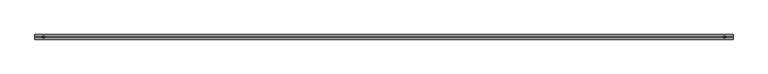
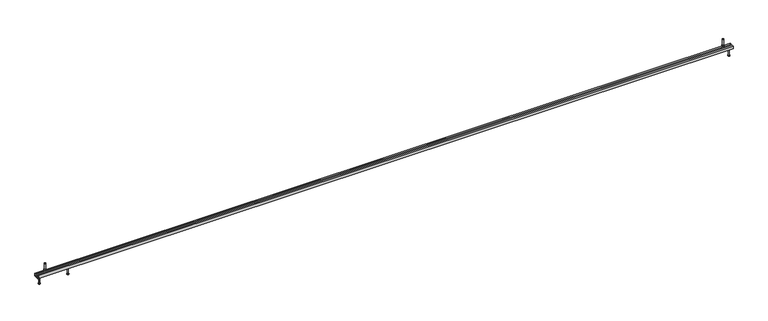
"""IFC4 building model written with IfcOpenShell, lengths in millimetres: fastener geometry, JTA-K JORDAHL® AnchorChannels : JTA-K L=6000 mm."""

from ifc_helpers import new_model, si_unit, point, frame, frame_2d, origin, place, context, project, spatial, polyline, circle_curve, trimmed, segment, composite_curve, outline, extrude, source, transform, mapped, element, save
from ifc_brep_helpers import plane_surface, cylinder_surface, revolved_surface, advanced_brep


def fastener_2074a9e6(model_context):
    return source(origin(), model_context, "Body", "SolidModel", [
        advanced_brep(
        [(272.9166667, 0.0, -25.0), (259.4166667, 0.0, -25.0), (286.4166667, 0.0, -25.0), (264.4166667, 0.0, -90.0), (272.9166667, 0.0, -90.0), (281.4166667, 0.0, -90.0), (264.4166667, 0.0, -88.0), (281.4166667, 0.0, -88.0), (268.4166667, 0.0, -85.6905989), (277.4166667, 0.0, -85.6905989), (268.4166667, 0.0, -27.5), (277.4166667, 0.0, -27.5)],
        [
            (0, 1),
            (1, 2, circle_curve(frame((272.9166667, 0.0, -25.0), z_axis=(0.0, 0.0, 1.0), x_axis=(1.0, 0.0, 0.0)), 13.5)),
            (2, 0),
            (2, 1, circle_curve(frame((272.9166667, 0.0, -25.0), z_axis=(0.0, 0.0, 1.0), x_axis=(1.0, 0.0, 0.0)), 13.5)),
            (3, 4),
            (4, 5),
            (5, 3, circle_curve(frame((272.9166667, 0.0, -90.0), z_axis=(0.0, 0.0, -1.0), x_axis=(1.0, 0.0, 0.0)), 8.5)),
            (3, 5, circle_curve(frame((272.9166667, 0.0, -90.0), z_axis=(0.0, 0.0, -1.0), x_axis=(1.0, 0.0, 0.0)), 8.5)),
            (6, 3),
            (5, 7),
            (7, 6, circle_curve(frame((272.9166667, 0.0, -88.0), z_axis=(0.0, 0.0, -1.0), x_axis=(1.0, 0.0, 0.0)), 8.5)),
            (6, 7, circle_curve(frame((272.9166667, 0.0, -88.0), z_axis=(0.0, 0.0, -1.0), x_axis=(1.0, 0.0, 0.0)), 8.5)),
            (8, 6),
            (7, 9),
            (9, 8, circle_curve(frame((272.9166667, 0.0, -85.6905989), z_axis=(0.0, 0.0, -1.0), x_axis=(1.0, 0.0, 0.0)), 4.5)),
            (8, 9, circle_curve(frame((272.9166667, 0.0, -85.6905989), z_axis=(0.0, 0.0, -1.0), x_axis=(1.0, 0.0, 0.0)), 4.5)),
            (10, 8),
            (9, 11),
            (11, 10, circle_curve(frame((272.9166667, 0.0, -27.5), z_axis=(0.0, 0.0, -1.0), x_axis=(1.0, 0.0, 0.0)), 4.5)),
            (10, 11, circle_curve(frame((272.9166667, 0.0, -27.5), z_axis=(0.0, 0.0, -1.0), x_axis=(1.0, 0.0, 0.0)), 4.5)),
            (1, 10),
            (11, 2),
        ],
        [
            plane_surface(frame((272.9166667, 0.0, -25.0), z_axis=(0.0, 0.0, 1.0), x_axis=(1.0, 0.0, 0.0))),
            plane_surface(frame((272.9166667, 0.0, -90.0), z_axis=(0.0, 0.0, -1.0), x_axis=(1.0, 0.0, 0.0))),
            cylinder_surface(frame((272.9166667, 0.0, 2279.3150031), z_axis=(0.0, 0.0, 1.0), x_axis=(1.0, 0.0, 0.0)), 8.5),
            revolved_surface(polyline([(281.4166667, 0.0, -88.0), (277.4166667, 0.0, -85.6905989)]), (272.9166667, 0.0, 2279.3150031), (0.0, 0.0, 1.0)),
            cylinder_surface(frame((272.9166667, 0.0, 2279.3150031), z_axis=(0.0, 0.0, 1.0), x_axis=(1.0, 0.0, 0.0)), 4.5),
            revolved_surface(polyline([(277.4166667, 0.0, -27.5), (286.4166667, 0.0, -25.0)]), (272.9166667, 0.0, 2279.3150031), (0.0, 0.0, 1.0)),
        ],
        [
            (0, [[1, 2, 3]]),
            (0, [[-3, 4, -1]]),
            (1, [[5, 6, 7]]),
            (1, [[-6, -5, 8]]),
            (2, [[9, -7, 10, 11]]),
            (2, [[-10, -8, -9, 12]]),
            (3, [[13, -11, 14, 15]]),
            (3, [[-14, -12, -13, 16]]),
            (4, [[17, -15, 18, 19]]),
            (4, [[-18, -16, -17, 20]]),
            (5, [[21, -19, 22, -2]]),
            (5, [[-22, -20, -21, -4]]),
        ],
    ),
        extrude(outline(polyline([(5925.0, -9.2376043), (5917.0, -4.6188022), (5917.0, 4.6188022), (5925.0, 9.2376043), (5933.0, 4.6188022), (5933.0, -4.6188022), (5925.0, -9.2376043)]), holes=[composite_curve([segment(trimmed(circle_curve(frame_2d((5925.0, 0.0)), 5.0), [point((5920.0, 0.0))], [point((5930.0, 0.0))], True, "CARTESIAN"), True, "CONTINUOUS"), segment(trimmed(circle_curve(frame_2d((5925.0, 0.0)), 5.0), [point((5930.0, 0.0))], [point((5920.0, 0.0))], True, "CARTESIAN"), True, "CONTINUOUS")], self_intersect=False)]), frame((0.0, 0.0, 17.0), z_axis=(0.0, 0.0, 1.0), x_axis=(1.0, 0.0, 0.0)), (0.0, 0.0, 1.0), 8.4),
        extrude(outline(composite_curve([segment(trimmed(circle_curve(frame_2d((5925.0, 0.0)), 10.0), [point((5915.0, 0.0))], [point((5935.0, 0.0))], False, "CARTESIAN"), True, "CONTINUOUS"), segment(trimmed(circle_curve(frame_2d((5925.0, 0.0)), 10.0), [point((5935.0, 0.0))], [point((5915.0, 0.0))], False, "CARTESIAN"), True, "CONTINUOUS")], self_intersect=False), holes=[composite_curve([segment(trimmed(circle_curve(frame_2d((5925.0, 0.0)), 5.25), [point((5919.75, 0.0))], [point((5930.25, 0.0))], True, "CARTESIAN"), True, "CONTINUOUS"), segment(trimmed(circle_curve(frame_2d((5925.0, 0.0)), 5.25), [point((5930.25, 0.0))], [point((5919.75, 0.0))], True, "CARTESIAN"), True, "CONTINUOUS")], self_intersect=False)]), frame((0.0, 0.0, 15.0), z_axis=(0.0, 0.0, 1.0), x_axis=(1.0, 0.0, 0.0)), (0.0, 0.0, 1.0), 2.0),
        extrude(outline(polyline([(75.0, -9.2376043), (67.0, -4.6188022), (67.0, 4.6188022), (75.0, 9.2376043), (83.0, 4.6188022), (83.0, -4.6188022), (75.0, -9.2376043)]), holes=[composite_curve([segment(trimmed(circle_curve(frame_2d((75.0, 0.0)), 5.0), [point((70.0, 0.0))], [point((80.0, 0.0))], True, "CARTESIAN"), True, "CONTINUOUS"), segment(trimmed(circle_curve(frame_2d((75.0, 0.0)), 5.0), [point((80.0, 0.0))], [point((70.0, 0.0))], True, "CARTESIAN"), True, "CONTINUOUS")], self_intersect=False)]), frame((0.0, 0.0, 17.0), z_axis=(0.0, 0.0, 1.0), x_axis=(1.0, 0.0, 0.0)), (0.0, 0.0, 1.0), 8.4),
        extrude(outline(composite_curve([segment(trimmed(circle_curve(frame_2d((75.0, 0.0)), 10.0), [point((65.0, 0.0))], [point((85.0, 0.0))], False, "CARTESIAN"), True, "CONTINUOUS"), segment(trimmed(circle_curve(frame_2d((75.0, 0.0)), 10.0), [point((85.0, 0.0))], [point((65.0, 0.0))], False, "CARTESIAN"), True, "CONTINUOUS")], self_intersect=False), holes=[composite_curve([segment(trimmed(circle_curve(frame_2d((75.0, 0.0)), 5.25), [point((69.75, 0.0))], [point((80.25, 0.0))], True, "CARTESIAN"), True, "CONTINUOUS"), segment(trimmed(circle_curve(frame_2d((75.0, 0.0)), 5.25), [point((80.25, 0.0))], [point((69.75, 0.0))], True, "CARTESIAN"), True, "CONTINUOUS")], self_intersect=False)]), frame((0.0, 0.0, 15.0), z_axis=(0.0, 0.0, 1.0), x_axis=(1.0, 0.0, 0.0)), (0.0, 0.0, 1.0), 2.0),
        advanced_brep(
        [(5932.0, -16.0, -3.0), (5932.0, -16.0, -11.0), (5932.0, 16.0, -11.0), (5932.0, 16.0, -3.0), (5918.0, -16.0, -3.0), (5918.0, 16.0, -3.0), (5918.0, 16.0, -11.0), (5918.0, -16.0, -11.0), (5930.0, 0.0, -3.0), (5920.0, 0.0, -3.0), (5920.0, 0.0, 77.0), (5930.0, 0.0, 77.0)],
        [
            (0, 1),
            (1, 2),
            (2, 3),
            (3, 0),
            (4, 5),
            (5, 6),
            (6, 7),
            (7, 4),
            (3, 5),
            (4, 0),
            (8, 9, circle_curve(frame((5925.0, 0.0, -3.0), z_axis=(0.0, 0.0, -1.0), x_axis=(1.0, 0.0, 0.0)), 5.0)),
            (9, 8, circle_curve(frame((5925.0, 0.0, -3.0), z_axis=(0.0, 0.0, -1.0), x_axis=(1.0, 0.0, 0.0)), 5.0)),
            (2, 6),
            (1, 7),
            (10, 11, circle_curve(frame((5925.0, 0.0, 77.0), z_axis=(0.0, 0.0, 1.0), x_axis=(1.0, 0.0, 0.0)), 5.0)),
            (11, 10, circle_curve(frame((5925.0, 0.0, 77.0), z_axis=(0.0, 0.0, 1.0), x_axis=(1.0, 0.0, 0.0)), 5.0)),
            (11, 8),
            (9, 10),
        ],
        [
            plane_surface(frame((5932.0, 16.0, -3.0), z_axis=(1.0, 0.0, 0.0), x_axis=(0.0, 1.0, 0.0))),
            plane_surface(frame((5918.0, 16.0, -3.0), z_axis=(-1.0, 0.0, 0.0), x_axis=(0.0, -1.0, 0.0))),
            plane_surface(frame((5932.0, -16.0, -3.0), z_axis=(0.0, 0.0, 1.0), x_axis=(-1.0, 0.0, 0.0))),
            plane_surface(frame((5932.0, 16.0, -3.0), z_axis=(0.0, 1.0, 0.0), x_axis=(-1.0, 0.0, 0.0))),
            plane_surface(frame((5932.0, 16.0, -11.0), z_axis=(0.0, 0.0, -1.0), x_axis=(-1.0, 0.0, 0.0))),
            plane_surface(frame((5932.0, -16.0, -11.0), z_axis=(0.0, -1.0, 0.0), x_axis=(-1.0, 0.0, 0.0))),
            plane_surface(frame((5930.0, 0.0, 77.0), z_axis=(0.0, 0.0, 1.0), x_axis=(0.0, -1.0, 0.0))),
            cylinder_surface(frame((5925.0, 0.0, -3.0), z_axis=(0.0, 0.0, 1.0), x_axis=(1.0, 0.0, 0.0)), 5.0),
        ],
        [
            (0, [[1, 2, 3, 4]]),
            (1, [[5, 6, 7, 8]]),
            (2, [[9, -5, 10, -4], [11, 12]]),
            (3, [[13, -6, -9, -3]]),
            (4, [[14, -7, -13, -2]]),
            (5, [[-10, -8, -14, -1]]),
            (6, [[15, 16]]),
            (7, [[17, -12, 18, -16]]),
            (7, [[-18, -11, -17, -15]]),
        ],
    ),
        advanced_brep(
        [(82.0, -16.0, -3.0), (82.0, -16.0, -11.0), (82.0, 16.0, -11.0), (82.0, 16.0, -3.0), (68.0, -16.0, -3.0), (68.0, 16.0, -3.0), (68.0, 16.0, -11.0), (68.0, -16.0, -11.0), (80.0, 0.0, -3.0), (70.0, 0.0, -3.0), (70.0, 0.0, 77.0), (80.0, 0.0, 77.0)],
        [
            (0, 1),
            (1, 2),
            (2, 3),
            (3, 0),
            (4, 5),
            (5, 6),
            (6, 7),
            (7, 4),
            (3, 5),
            (4, 0),
            (8, 9, circle_curve(frame((75.0, 0.0, -3.0), z_axis=(0.0, 0.0, -1.0), x_axis=(1.0, 0.0, 0.0)), 5.0)),
            (9, 8, circle_curve(frame((75.0, 0.0, -3.0), z_axis=(0.0, 0.0, -1.0), x_axis=(1.0, 0.0, 0.0)), 5.0)),
            (2, 6),
            (1, 7),
            (10, 11, circle_curve(frame((75.0, 0.0, 77.0), z_axis=(0.0, 0.0, 1.0), x_axis=(1.0, 0.0, 0.0)), 5.0)),
            (11, 10, circle_curve(frame((75.0, 0.0, 77.0), z_axis=(0.0, 0.0, 1.0), x_axis=(1.0, 0.0, 0.0)), 5.0)),
            (11, 8),
            (9, 10),
        ],
        [
            plane_surface(frame((82.0, 16.0, -3.0), z_axis=(1.0, 0.0, 0.0), x_axis=(0.0, 1.0, 0.0))),
            plane_surface(frame((68.0, 16.0, -3.0), z_axis=(-1.0, 0.0, 0.0), x_axis=(0.0, -1.0, 0.0))),
            plane_surface(frame((82.0, -16.0, -3.0), z_axis=(0.0, 0.0, 1.0), x_axis=(-1.0, 0.0, 0.0))),
            plane_surface(frame((82.0, 16.0, -3.0), z_axis=(0.0, 1.0, 0.0), x_axis=(-1.0, 0.0, 0.0))),
            plane_surface(frame((82.0, 16.0, -11.0), z_axis=(0.0, 0.0, -1.0), x_axis=(-1.0, 0.0, 0.0))),
            plane_surface(frame((82.0, -16.0, -11.0), z_axis=(0.0, -1.0, 0.0), x_axis=(-1.0, 0.0, 0.0))),
            plane_surface(frame((80.0, 0.0, 77.0), z_axis=(0.0, 0.0, 1.0), x_axis=(0.0, -1.0, 0.0))),
            cylinder_surface(frame((75.0, 0.0, -3.0), z_axis=(0.0, 0.0, 1.0), x_axis=(1.0, 0.0, 0.0)), 5.0),
        ],
        [
            (0, [[1, 2, 3, 4]]),
            (1, [[5, 6, 7, 8]]),
            (2, [[9, -5, 10, -4], [11, 12]]),
            (3, [[13, -6, -9, -3]]),
            (4, [[14, -7, -13, -2]]),
            (5, [[-10, -8, -14, -1]]),
            (6, [[15, 16]]),
            (7, [[17, -12, 18, -16]]),
            (7, [[-18, -11, -17, -15]]),
        ],
    ),
        advanced_brep(
        [(5975.0, 0.0, -25.0), (5961.5, 0.0, -25.0), (5988.5, 0.0, -25.0), (5966.5, 0.0, -90.0), (5975.0, 0.0, -90.0), (5983.5, 0.0, -90.0), (5966.5, 0.0, -88.0), (5983.5, 0.0, -88.0), (5970.5, 0.0, -85.6905989), (5979.5, 0.0, -85.6905989), (5970.5, 0.0, -27.5), (5979.5, 0.0, -27.5)],
        [
            (0, 1),
            (1, 2, circle_curve(frame((5975.0, 0.0, -25.0), z_axis=(0.0, 0.0, 1.0), x_axis=(1.0, 0.0, 0.0)), 13.5)),
            (2, 0),
            (2, 1, circle_curve(frame((5975.0, 0.0, -25.0), z_axis=(0.0, 0.0, 1.0), x_axis=(1.0, 0.0, 0.0)), 13.5)),
            (3, 4),
            (4, 5),
            (5, 3, circle_curve(frame((5975.0, 0.0, -90.0), z_axis=(0.0, 0.0, -1.0), x_axis=(1.0, 0.0, 0.0)), 8.5)),
            (3, 5, circle_curve(frame((5975.0, 0.0, -90.0), z_axis=(0.0, 0.0, -1.0), x_axis=(1.0, 0.0, 0.0)), 8.5)),
            (6, 3),
            (5, 7),
            (7, 6, circle_curve(frame((5975.0, 0.0, -88.0), z_axis=(0.0, 0.0, -1.0), x_axis=(1.0, 0.0, 0.0)), 8.5)),
            (6, 7, circle_curve(frame((5975.0, 0.0, -88.0), z_axis=(0.0, 0.0, -1.0), x_axis=(1.0, 0.0, 0.0)), 8.5)),
            (8, 6),
            (7, 9),
            (9, 8, circle_curve(frame((5975.0, 0.0, -85.6905989), z_axis=(0.0, 0.0, -1.0), x_axis=(1.0, 0.0, 0.0)), 4.5)),
            (8, 9, circle_curve(frame((5975.0, 0.0, -85.6905989), z_axis=(0.0, 0.0, -1.0), x_axis=(1.0, 0.0, 0.0)), 4.5)),
            (10, 8),
            (9, 11),
            (11, 10, circle_curve(frame((5975.0, 0.0, -27.5), z_axis=(0.0, 0.0, -1.0), x_axis=(1.0, 0.0, 0.0)), 4.5)),
            (10, 11, circle_curve(frame((5975.0, 0.0, -27.5), z_axis=(0.0, 0.0, -1.0), x_axis=(1.0, 0.0, 0.0)), 4.5)),
            (1, 10),
            (11, 2),
        ],
        [
            plane_surface(frame((5975.0, 0.0, -25.0), z_axis=(0.0, 0.0, 1.0), x_axis=(1.0, 0.0, 0.0))),
            plane_surface(frame((5975.0, 0.0, -90.0), z_axis=(0.0, 0.0, -1.0), x_axis=(1.0, 0.0, 0.0))),
            cylinder_surface(frame((5975.0, 0.0, 2279.3150031), z_axis=(0.0, 0.0, 1.0), x_axis=(1.0, 0.0, 0.0)), 8.5),
            revolved_surface(polyline([(5983.5, 0.0, -88.0), (5979.5, 0.0, -85.6905989)]), (5975.0, 0.0, 2279.3150031), (0.0, 0.0, 1.0)),
            cylinder_surface(frame((5975.0, 0.0, 2279.3150031), z_axis=(0.0, 0.0, 1.0), x_axis=(1.0, 0.0, 0.0)), 4.5),
            revolved_surface(polyline([(5979.5, 0.0, -27.5), (5988.5, 0.0, -25.0)]), (5975.0, 0.0, 2279.3150031), (0.0, 0.0, 1.0)),
        ],
        [
            (0, [[1, 2, 3]]),
            (0, [[-3, 4, -1]]),
            (1, [[5, 6, 7]]),
            (1, [[-6, -5, 8]]),
            (2, [[9, -7, 10, 11]]),
            (2, [[-10, -8, -9, 12]]),
            (3, [[13, -11, 14, 15]]),
            (3, [[-14, -12, -13, 16]]),
            (4, [[17, -15, 18, 19]]),
            (4, [[-18, -16, -17, 20]]),
            (5, [[21, -19, 22, -2]]),
            (5, [[-22, -20, -21, -4]]),
        ],
    ),
        advanced_brep(
        [(25.0, 0.0, -25.0), (11.5, 0.0, -25.0), (38.5, 0.0, -25.0), (16.5, 0.0, -90.0), (25.0, 0.0, -90.0), (33.5, 0.0, -90.0), (16.5, 0.0, -88.0), (33.5, 0.0, -88.0), (20.5, 0.0, -85.6905989), (29.5, 0.0, -85.6905989), (20.5, 0.0, -27.5), (29.5, 0.0, -27.5)],
        [
            (0, 1),
            (1, 2, circle_curve(frame((25.0, 0.0, -25.0), z_axis=(0.0, 0.0, 1.0), x_axis=(1.0, 0.0, 0.0)), 13.5)),
            (2, 0),
            (2, 1, circle_curve(frame((25.0, 0.0, -25.0), z_axis=(0.0, 0.0, 1.0), x_axis=(1.0, 0.0, 0.0)), 13.5)),
            (3, 4),
            (4, 5),
            (5, 3, circle_curve(frame((25.0, 0.0, -90.0), z_axis=(0.0, 0.0, -1.0), x_axis=(1.0, 0.0, 0.0)), 8.5)),
            (3, 5, circle_curve(frame((25.0, 0.0, -90.0), z_axis=(0.0, 0.0, -1.0), x_axis=(1.0, 0.0, 0.0)), 8.5)),
            (6, 3),
            (5, 7),
            (7, 6, circle_curve(frame((25.0, 0.0, -88.0), z_axis=(0.0, 0.0, -1.0), x_axis=(1.0, 0.0, 0.0)), 8.5)),
            (6, 7, circle_curve(frame((25.0, 0.0, -88.0), z_axis=(0.0, 0.0, -1.0), x_axis=(1.0, 0.0, 0.0)), 8.5)),
            (8, 6),
            (7, 9),
            (9, 8, circle_curve(frame((25.0, 0.0, -85.6905989), z_axis=(0.0, 0.0, -1.0), x_axis=(1.0, 0.0, 0.0)), 4.5)),
            (8, 9, circle_curve(frame((25.0, 0.0, -85.6905989), z_axis=(0.0, 0.0, -1.0), x_axis=(1.0, 0.0, 0.0)), 4.5)),
            (10, 8),
            (9, 11),
            (11, 10, circle_curve(frame((25.0, 0.0, -27.5), z_axis=(0.0, 0.0, -1.0), x_axis=(1.0, 0.0, 0.0)), 4.5)),
            (10, 11, circle_curve(frame((25.0, 0.0, -27.5), z_axis=(0.0, 0.0, -1.0), x_axis=(1.0, 0.0, 0.0)), 4.5)),
            (1, 10),
            (11, 2),
        ],
        [
            plane_surface(frame((25.0, 0.0, -25.0), z_axis=(0.0, 0.0, 1.0), x_axis=(1.0, 0.0, 0.0))),
            plane_surface(frame((25.0, 0.0, -90.0), z_axis=(0.0, 0.0, -1.0), x_axis=(1.0, 0.0, 0.0))),
            cylinder_surface(frame((25.0, 0.0, 2279.3150031), z_axis=(0.0, 0.0, 1.0), x_axis=(1.0, 0.0, 0.0)), 8.5),
            revolved_surface(polyline([(33.5, 0.0, -88.0), (29.5, 0.0, -85.6905989)]), (25.0, 0.0, 2279.3150031), (0.0, 0.0, 1.0)),
            cylinder_surface(frame((25.0, 0.0, 2279.3150031), z_axis=(0.0, 0.0, 1.0), x_axis=(1.0, 0.0, 0.0)), 4.5),
            revolved_surface(polyline([(29.5, 0.0, -27.5), (38.5, 0.0, -25.0)]), (25.0, 0.0, 2279.3150031), (0.0, 0.0, 1.0)),
        ],
        [
            (0, [[1, 2, 3]]),
            (0, [[-3, 4, -1]]),
            (1, [[5, 6, 7]]),
            (1, [[-6, -5, 8]]),
            (2, [[9, -7, 10, 11]]),
            (2, [[-10, -8, -9, 12]]),
            (3, [[13, -11, 14, 15]]),
            (3, [[-14, -12, -13, 16]]),
            (4, [[17, -15, 18, 19]]),
            (4, [[-18, -16, -17, 20]]),
            (5, [[21, -19, 22, -2]]),
            (5, [[-22, -20, -21, -4]]),
        ],
    ),
        extrude(outline(polyline([(-20.0, 0.0), (-9.0, 0.0), (-9.0, -3.0), (-17.0, -3.0), (-17.0, -22.0), (17.0, -22.0), (17.0, -3.0), (9.0, -3.0), (9.0, 0.0), (20.0, 0.0), (20.0, -25.0), (-20.0, -25.0), (-20.0, 0.0)])), frame((0.0, 0.0, 0.0), z_axis=(1.0, 0.0, 0.0), x_axis=(0.0, 1.0, 0.0)), (0.0, 0.0, 1.0), 6000.0),
    ])


if __name__ == "__main__":
    model = new_model("IFC4")
    model_context = context("Model", 3, world=origin())
    ifc_project = project(units=[si_unit("LENGTHUNIT", "METRE", prefix="MILLI")], contexts=[model_context])
    site = spatial("IfcSite", under=ifc_project)
    building = spatial("IfcBuilding", under=site)
    placement = place(None, origin())
    fastener_shape = fastener_2074a9e6(model_context)
    element("IfcFastener", 1, ObjectType="JTA-K JORDAHL® AnchorChannels : JTA-K L=6000 mm", at=placement, inside=building, context=model_context, shape_type="MappedRepresentation", body=[
        mapped(fastener_shape, transform((0.0, 0.0, 0.0), x_axis=(1.0, 0.0, 0.0), y_axis=(0.0, 1.0, 0.0), z_axis=(0.0, 0.0, 1.0))),
    ])
    save(model, "model.ifc")
